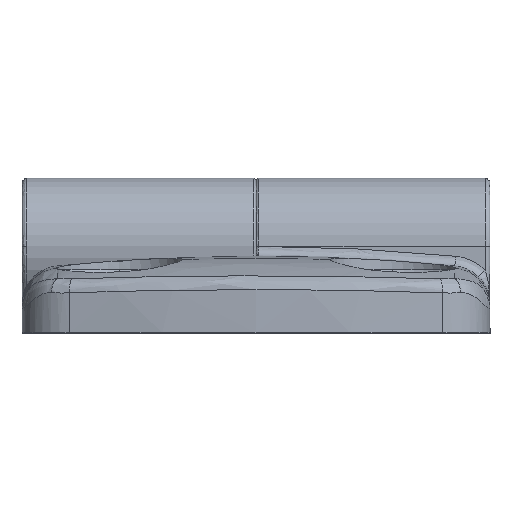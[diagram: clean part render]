
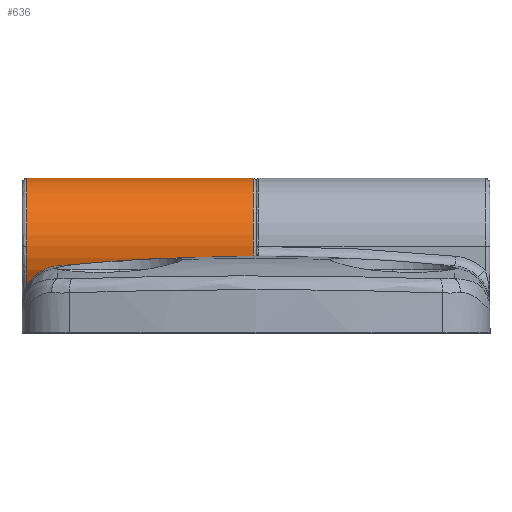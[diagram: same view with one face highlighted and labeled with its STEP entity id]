
A CAD part, top view. The second image highlights one B-rep face of the part: STEP entity #636.
In plain terms, the highlighted cylindrical face has radius 7 mm (diameter 14 mm), a partial arc.
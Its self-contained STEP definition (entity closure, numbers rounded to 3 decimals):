
#94 = VERTEX_POINT ( 'NONE', #1264 ) ;
#250 = CARTESIAN_POINT ( 'NONE',  ( -23.5, 2.838, 3.5 ) ) ;
#345 = EDGE_CURVE ( 'NONE', #6445, #3559, #4921, .T. ) ;
#624 = DIRECTION ( 'NONE',  ( -1., 0., 0. ) ) ;
#636 = ADVANCED_FACE ( 'NONE', ( #6213 ), #5230, .T. ) ;
#970 = CARTESIAN_POINT ( 'NONE',  ( -23.5, 15.9, 0. ) ) ;
#1264 = CARTESIAN_POINT ( 'NONE',  ( -23.5, 8.9, 7. ) ) ;
#1470 = ORIENTED_EDGE ( 'NONE', *, *, #345, .T. ) ;
#1490 = DIRECTION ( 'NONE',  ( 0., 0., 1. ) ) ;
#1539 = EDGE_CURVE ( 'NONE', #3479, #94, #3635, .T. ) ;
#1545 = DIRECTION ( 'NONE',  ( 1., 0., 0. ) ) ;
#1807 = ORIENTED_EDGE ( 'NONE', *, *, #2806, .T. ) ;
#2014 = AXIS2_PLACEMENT_3D ( 'NONE', #5775, #624, #4180 ) ;
#2343 = EDGE_LOOP ( 'NONE', ( #3869, #5573, #2575, #1807, #1470 ) ) ;
#2558 = DIRECTION ( 'NONE',  ( -1., 0., 0. ) ) ;
#2575 = ORIENTED_EDGE ( 'NONE', *, *, #1539, .F. ) ;
#2759 = DIRECTION ( 'NONE',  ( 0., 0., 1. ) ) ;
#2785 = AXIS2_PLACEMENT_3D ( 'NONE', #3600, #1545, #3569 ) ;
#2806 = EDGE_CURVE ( 'NONE', #3479, #6445, #4679, .T. ) ;
#2866 = EDGE_CURVE ( 'NONE', #94, #4447, #4635, .T. ) ;
#3112 = DIRECTION ( 'NONE',  ( 1., 0., 0. ) ) ;
#3354 = CARTESIAN_POINT ( 'NONE',  ( -0.3, 2.838, 3.5 ) ) ;
#3366 = AXIS2_PLACEMENT_3D ( 'NONE', #6159, #6630, #1490 ) ;
#3479 = VERTEX_POINT ( 'NONE', #250 ) ;
#3559 = VERTEX_POINT ( 'NONE', #5801 ) ;
#3569 = DIRECTION ( 'NONE',  ( 0., 1., 0. ) ) ;
#3600 = CARTESIAN_POINT ( 'NONE',  ( 24., 8.9, 0. ) ) ;
#3635 = CIRCLE ( 'NONE', #4177, 7. ) ;
#3781 = VECTOR ( 'NONE', #3112, 1000. ) ;
#3869 = ORIENTED_EDGE ( 'NONE', *, *, #4501, .F. ) ;
#4177 = AXIS2_PLACEMENT_3D ( 'NONE', #5634, #2558, #2759 ) ;
#4180 = DIRECTION ( 'NONE',  ( 0., 1., 0. ) ) ;
#4447 = VERTEX_POINT ( 'NONE', #970 ) ;
#4501 = EDGE_CURVE ( 'NONE', #4447, #3559, #5173, .T. ) ;
#4621 = CARTESIAN_POINT ( 'NONE',  ( 24., 15.9, 0. ) ) ;
#4635 = CIRCLE ( 'NONE', #3366, 7. ) ;
#4679 = LINE ( 'NONE', #5062, #3781 ) ;
#4921 = CIRCLE ( 'NONE', #2014, 7. ) ;
#5062 = CARTESIAN_POINT ( 'NONE',  ( 24., 2.838, 3.5 ) ) ;
#5173 = LINE ( 'NONE', #4621, #6302 ) ;
#5230 = CYLINDRICAL_SURFACE ( 'NONE', #2785, 7. ) ;
#5573 = ORIENTED_EDGE ( 'NONE', *, *, #2866, .F. ) ;
#5634 = CARTESIAN_POINT ( 'NONE',  ( -23.5, 8.9, 0. ) ) ;
#5756 = DIRECTION ( 'NONE',  ( 1., 0., 0. ) ) ;
#5775 = CARTESIAN_POINT ( 'NONE',  ( -0.3, 8.9, 0. ) ) ;
#5801 = CARTESIAN_POINT ( 'NONE',  ( -0.3, 15.9, 0. ) ) ;
#6159 = CARTESIAN_POINT ( 'NONE',  ( -23.5, 8.9, 0. ) ) ;
#6213 = FACE_OUTER_BOUND ( 'NONE', #2343, .T. ) ;
#6302 = VECTOR ( 'NONE', #5756, 1000. ) ;
#6445 = VERTEX_POINT ( 'NONE', #3354 ) ;
#6630 = DIRECTION ( 'NONE',  ( -1., 0., 0. ) ) ;
